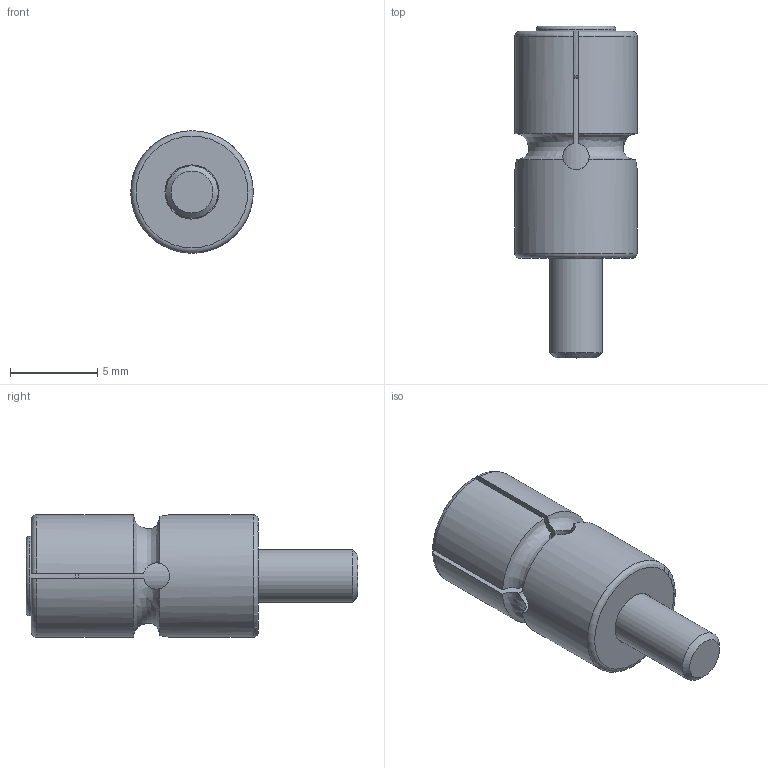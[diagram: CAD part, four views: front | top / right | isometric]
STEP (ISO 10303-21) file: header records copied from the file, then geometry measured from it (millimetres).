
FILE_DESCRIPTION(/* description */ (''),/* implementation_level */ '2;1');
FILE_NAME(/* name */ '7MM扩张销.stp',/* time_stamp */ '2023-11-23T21:17:03+08:00',/* author */ (''),/* organization */ (''),/* preprocessor_version */ 'ST-DEVELOPER v16',/* originating_system */ 'SIEMENS PLM Software NX 10.0',/* authorisation */ '');
FILE_SCHEMA (('CONFIG_CONTROL_DESIGN'));
Length unit declared in the file: millimetre
Products named in the file (1): 6MM扩张销_stp
Bounding box: 7 x 19 x 7 mm (x, y, z)
Volume: 483.2 mm3; surface area: 787.9 mm2
Topology: 2 solids, 2 shells, 57 faces, 149 edges, 97 vertices
Faces by surface type: plane 23, cylinder 17, torus 7, cone 6, bspline 4
Full cylindrical faces by diameter (mm): 3 x1, 3.1 x1, 7 x1
Entity records: 3364 total; most frequent: CARTESIAN_POINT 2022, ORIENTED_EDGE 272, DIRECTION 228, EDGE_CURVE 136, VERTEX_POINT 92, AXIS2_PLACEMENT_3D 86, EDGE_LOOP 68, ADVANCED_FACE 57
